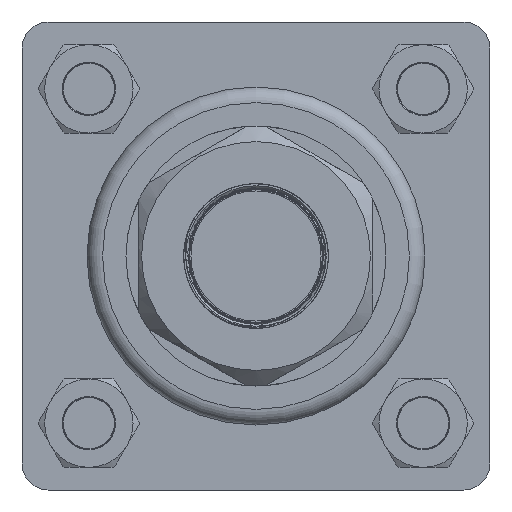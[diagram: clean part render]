
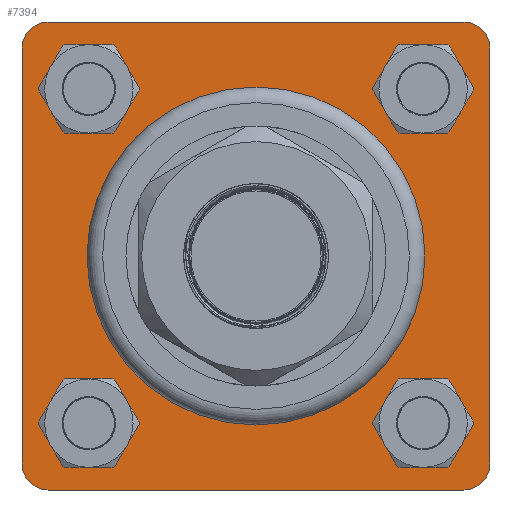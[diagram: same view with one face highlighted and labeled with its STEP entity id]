
A CAD part, left-side view. The second image highlights one B-rep face of the part: STEP entity #7394.
In plain terms, the highlighted planar face has unit normal (-1, 0, 0) as drawn and (0, 0, -1) by its records, which use the part's own axes.
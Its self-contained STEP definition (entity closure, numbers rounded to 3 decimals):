
#727=FACE_BOUND('',#1650,.T.);
#728=FACE_BOUND('',#1651,.T.);
#729=FACE_BOUND('',#1652,.T.);
#730=FACE_BOUND('',#1653,.T.);
#731=FACE_BOUND('',#1654,.T.);
#786=PLANE('',#8035);
#1178=FACE_OUTER_BOUND('',#1649,.T.);
#1649=EDGE_LOOP('',(#5201,#5202,#5203,#5204,#5205,#5206,#5207,#5208));
#1650=EDGE_LOOP('',(#5209));
#1651=EDGE_LOOP('',(#5210));
#1652=EDGE_LOOP('',(#5211));
#1653=EDGE_LOOP('',(#5212));
#1654=EDGE_LOOP('',(#5213));
#2142=LINE('',#11368,#2483);
#2143=LINE('',#11372,#2484);
#2144=LINE('',#11376,#2485);
#2145=LINE('',#11380,#2486);
#2483=VECTOR('',#9013,10.);
#2484=VECTOR('',#9016,10.);
#2485=VECTOR('',#9019,10.);
#2486=VECTOR('',#9022,10.);
#2816=CIRCLE('',#8005,4.263);
#2826=CIRCLE('',#8018,4.263);
#2828=CIRCLE('',#8022,4.263);
#2830=CIRCLE('',#8026,4.263);
#2835=CIRCLE('',#8033,32.5);
#2836=CIRCLE('',#8036,5.);
#2837=CIRCLE('',#8037,5.);
#2838=CIRCLE('',#8038,5.);
#2839=CIRCLE('',#8039,5.);
#3173=VERTEX_POINT('',#11300);
#3187=VERTEX_POINT('',#11333);
#3189=VERTEX_POINT('',#11341);
#3191=VERTEX_POINT('',#11349);
#3195=VERTEX_POINT('',#11361);
#3196=VERTEX_POINT('',#11366);
#3197=VERTEX_POINT('',#11367);
#3198=VERTEX_POINT('',#11369);
#3199=VERTEX_POINT('',#11371);
#3200=VERTEX_POINT('',#11373);
#3201=VERTEX_POINT('',#11375);
#3202=VERTEX_POINT('',#11377);
#3203=VERTEX_POINT('',#11379);
#3948=EDGE_CURVE('',#3173,#3173,#2816,.F.);
#3964=EDGE_CURVE('',#3187,#3187,#2826,.F.);
#3968=EDGE_CURVE('',#3189,#3189,#2828,.F.);
#3972=EDGE_CURVE('',#3191,#3191,#2830,.F.);
#3978=EDGE_CURVE('',#3195,#3195,#2835,.T.);
#3979=EDGE_CURVE('',#3196,#3197,#2142,.T.);
#3980=EDGE_CURVE('',#3198,#3196,#2836,.T.);
#3981=EDGE_CURVE('',#3199,#3198,#2143,.T.);
#3982=EDGE_CURVE('',#3200,#3199,#2837,.T.);
#3983=EDGE_CURVE('',#3201,#3200,#2144,.T.);
#3984=EDGE_CURVE('',#3202,#3201,#2838,.T.);
#3985=EDGE_CURVE('',#3203,#3202,#2145,.T.);
#3986=EDGE_CURVE('',#3197,#3203,#2839,.T.);
#5201=ORIENTED_EDGE('',*,*,#3979,.F.);
#5202=ORIENTED_EDGE('',*,*,#3980,.F.);
#5203=ORIENTED_EDGE('',*,*,#3981,.F.);
#5204=ORIENTED_EDGE('',*,*,#3982,.F.);
#5205=ORIENTED_EDGE('',*,*,#3983,.F.);
#5206=ORIENTED_EDGE('',*,*,#3984,.F.);
#5207=ORIENTED_EDGE('',*,*,#3985,.F.);
#5208=ORIENTED_EDGE('',*,*,#3986,.F.);
#5209=ORIENTED_EDGE('',*,*,#3964,.F.);
#5210=ORIENTED_EDGE('',*,*,#3968,.F.);
#5211=ORIENTED_EDGE('',*,*,#3948,.F.);
#5212=ORIENTED_EDGE('',*,*,#3972,.F.);
#5213=ORIENTED_EDGE('',*,*,#3978,.F.);
#7394=ADVANCED_FACE('',(#1178,#727,#728,#729,#730,#731),#786,.T.);
#8005=AXIS2_PLACEMENT_3D('',#11302,#8940,#8941);
#8018=AXIS2_PLACEMENT_3D('',#11335,#8972,#8973);
#8022=AXIS2_PLACEMENT_3D('',#11343,#8982,#8983);
#8026=AXIS2_PLACEMENT_3D('',#11351,#8992,#8993);
#8033=AXIS2_PLACEMENT_3D('',#11363,#9007,#9008);
#8035=AXIS2_PLACEMENT_3D('',#11365,#9011,#9012);
#8036=AXIS2_PLACEMENT_3D('',#11370,#9014,#9015);
#8037=AXIS2_PLACEMENT_3D('',#11374,#9017,#9018);
#8038=AXIS2_PLACEMENT_3D('',#11378,#9020,#9021);
#8039=AXIS2_PLACEMENT_3D('',#11381,#9023,#9024);
#8940=DIRECTION('center_axis',(0.,0.,1.));
#8941=DIRECTION('ref_axis',(-1.,0.,0.));
#8972=DIRECTION('center_axis',(0.,0.,1.));
#8973=DIRECTION('ref_axis',(-1.,0.,0.));
#8982=DIRECTION('center_axis',(0.,0.,1.));
#8983=DIRECTION('ref_axis',(-1.,0.,0.));
#8992=DIRECTION('center_axis',(0.,0.,1.));
#8993=DIRECTION('ref_axis',(-1.,0.,0.));
#9007=DIRECTION('center_axis',(0.,0.,-1.));
#9008=DIRECTION('ref_axis',(1.,0.,0.));
#9011=DIRECTION('center_axis',(0.,0.,-1.));
#9012=DIRECTION('ref_axis',(1.,0.,0.));
#9013=DIRECTION('',(0.,1.,0.));
#9014=DIRECTION('center_axis',(0.,0.,1.));
#9015=DIRECTION('ref_axis',(0.707,-0.707,0.));
#9016=DIRECTION('',(1.,0.,0.));
#9017=DIRECTION('center_axis',(0.,0.,1.));
#9018=DIRECTION('ref_axis',(-0.707,-0.707,0.));
#9019=DIRECTION('',(0.,-1.,0.));
#9020=DIRECTION('center_axis',(0.,0.,1.));
#9021=DIRECTION('ref_axis',(-0.707,0.707,0.));
#9022=DIRECTION('',(-1.,0.,0.));
#9023=DIRECTION('center_axis',(0.,0.,1.));
#9024=DIRECTION('ref_axis',(0.707,0.707,0.));
#11300=CARTESIAN_POINT('',(17.113,77.15,10.));
#11302=CARTESIAN_POINT('Origin',(12.85,77.15,10.));
#11333=CARTESIAN_POINT('',(81.413,77.15,10.));
#11335=CARTESIAN_POINT('Origin',(77.15,77.15,10.));
#11341=CARTESIAN_POINT('',(81.413,12.85,10.));
#11343=CARTESIAN_POINT('Origin',(77.15,12.85,10.));
#11349=CARTESIAN_POINT('',(17.113,12.85,10.));
#11351=CARTESIAN_POINT('Origin',(12.85,12.85,10.));
#11361=CARTESIAN_POINT('',(12.5,45.,10.));
#11363=CARTESIAN_POINT('Origin',(45.,45.,10.));
#11365=CARTESIAN_POINT('Origin',(45.,45.,10.));
#11366=CARTESIAN_POINT('',(90.,5.,10.));
#11367=CARTESIAN_POINT('',(90.,85.,10.));
#11368=CARTESIAN_POINT('',(90.,22.5,10.));
#11369=CARTESIAN_POINT('',(85.,0.,10.));
#11370=CARTESIAN_POINT('Origin',(85.,5.,10.));
#11371=CARTESIAN_POINT('',(5.,0.,10.));
#11372=CARTESIAN_POINT('',(22.5,0.,10.));
#11373=CARTESIAN_POINT('',(0.,5.,10.));
#11374=CARTESIAN_POINT('Origin',(5.,5.,10.));
#11375=CARTESIAN_POINT('',(0.,85.,10.));
#11376=CARTESIAN_POINT('',(0.,67.5,10.));
#11377=CARTESIAN_POINT('',(5.,90.,10.));
#11378=CARTESIAN_POINT('Origin',(5.,85.,10.));
#11379=CARTESIAN_POINT('',(85.,90.,10.));
#11380=CARTESIAN_POINT('',(67.5,90.,10.));
#11381=CARTESIAN_POINT('Origin',(85.,85.,10.));
